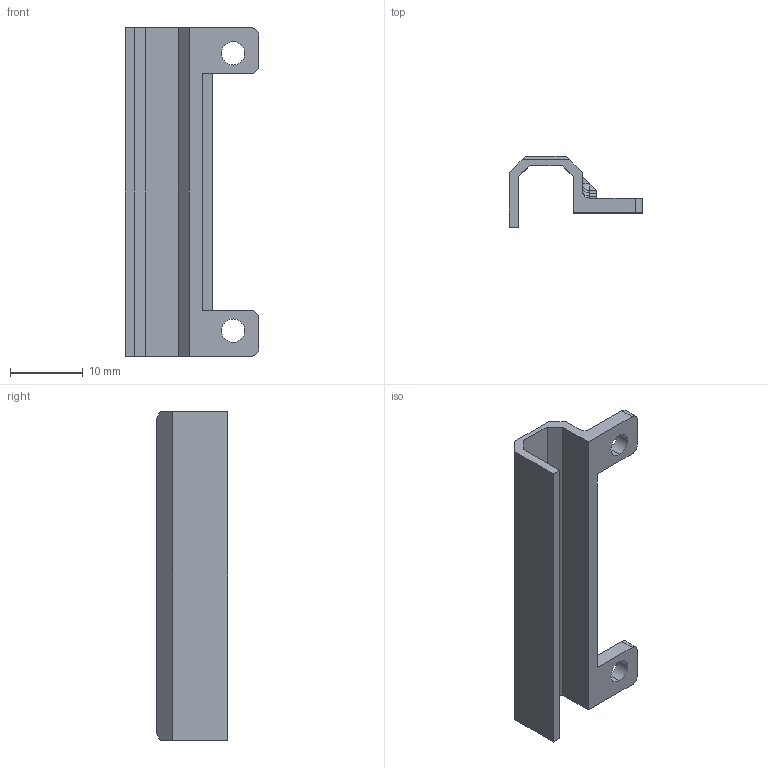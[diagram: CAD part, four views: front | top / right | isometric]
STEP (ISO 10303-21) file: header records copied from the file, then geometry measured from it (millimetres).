
FILE_DESCRIPTION (( 'STEP AP203' ), '1' );
FILE_NAME ('BR01_HIP_COVER_D.STEP');
FILE_SCHEMA (( 'CONFIG_CONTROL_DESIGN' ));
Length unit declared in the file: millimetre
Products named in the file (1): BR01_HIP_COVER_D
Bounding box: 18.25 x 9.75 x 45 mm (x, y, z)
Volume: 1573.9 mm3; surface area: 2602.7 mm2
Topology: 1 solids, 1 shells, 67 faces, 172 edges, 102 vertices
Faces by surface type: plane 32, cylinder 27, sphere 6, torus 2
Entity records: 2050 total; most frequent: CARTESIAN_POINT 361, DIRECTION 343, ORIENTED_EDGE 334, EDGE_CURVE 167, AXIS2_PLACEMENT_3D 116, VECTOR 111, LINE 111, VERTEX_POINT 102
